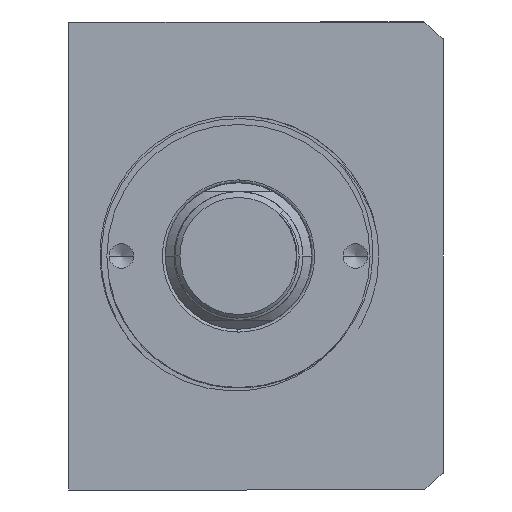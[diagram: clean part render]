
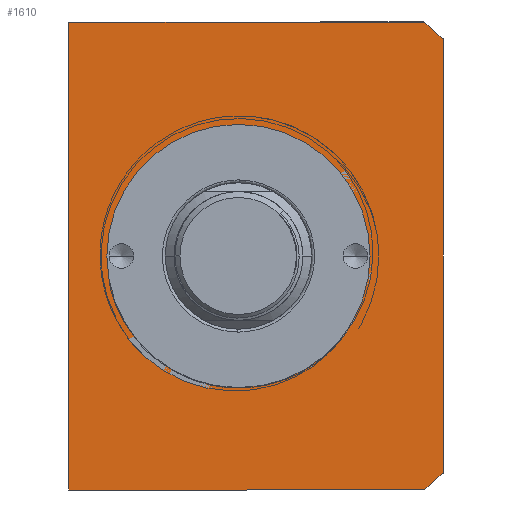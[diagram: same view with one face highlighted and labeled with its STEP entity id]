
A CAD part, front view. The second image highlights one B-rep face of the part: STEP entity #1610.
In plain terms, the highlighted planar face has unit normal (0, -1, 0) as drawn and (0, 0, 1) by its records, which use the part's own axes.
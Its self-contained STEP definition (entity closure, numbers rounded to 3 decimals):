
#3 = CARTESIAN_POINT ( 'NONE',  ( -40., -11.507, 85. ) ) ;
#269 = ORIENTED_EDGE ( 'NONE', *, *, #13933, .T. ) ;
#393 = DIRECTION ( 'NONE',  ( 1., 0., 0. ) ) ;
#505 = VERTEX_POINT ( 'NONE', #15257 ) ;
#553 = PLANE ( 'NONE',  #6354 ) ;
#1166 = CIRCLE ( 'NONE', #10060, 51. ) ;
#1325 = CARTESIAN_POINT ( 'NONE',  ( 22.5, -40.507, 85. ) ) ;
#1394 = CIRCLE ( 'NONE', #5482, 51. ) ;
#1535 = EDGE_CURVE ( 'NONE', #9609, #13729, #16330, .T. ) ;
#1610 = ADVANCED_FACE ( 'NONE', ( #2219, #13230 ), #553, .T. ) ;
#1814 = DIRECTION ( 'NONE',  ( 0., 0., 1. ) ) ;
#1850 = EDGE_CURVE ( 'NONE', #3968, #6178, #1394, .T. ) ;
#1895 = DIRECTION ( 'NONE',  ( 0., 0., 1. ) ) ;
#2052 = ORIENTED_EDGE ( 'NONE', *, *, #14665, .F. ) ;
#2219 = FACE_BOUND ( 'NONE', #7257, .T. ) ;
#3152 = CARTESIAN_POINT ( 'NONE',  ( 0., -40.507, 85. ) ) ;
#3162 = ORIENTED_EDGE ( 'NONE', *, *, #8973, .T. ) ;
#3217 = VECTOR ( 'NONE', #10965, 1000. ) ;
#3622 = VERTEX_POINT ( 'NONE', #5180 ) ;
#3968 = VERTEX_POINT ( 'NONE', #3976 ) ;
#3976 = CARTESIAN_POINT ( 'NONE',  ( -40., -72.145, 85. ) ) ;
#4031 = DIRECTION ( 'NONE',  ( 0., -1., 0. ) ) ;
#4049 = ORIENTED_EDGE ( 'NONE', *, *, #15412, .T. ) ;
#4606 = DIRECTION ( 'NONE',  ( 1., 0., 0. ) ) ;
#4682 = CIRCLE ( 'NONE', #13540, 22.5 ) ;
#4862 = VECTOR ( 'NONE', #4031, 1000. ) ;
#4977 = EDGE_CURVE ( 'NONE', #3622, #6507, #8776, .T. ) ;
#5033 = EDGE_CURVE ( 'NONE', #505, #3968, #15453, .T. ) ;
#5180 = CARTESIAN_POINT ( 'NONE',  ( 40., -72.145, 85. ) ) ;
#5281 = VECTOR ( 'NONE', #13072, 1000. ) ;
#5482 = AXIS2_PLACEMENT_3D ( 'NONE', #6637, #15932, #7964 ) ;
#6178 = VERTEX_POINT ( 'NONE', #6325 ) ;
#6325 = CARTESIAN_POINT ( 'NONE',  ( -37.094, -75.507, 85. ) ) ;
#6354 = AXIS2_PLACEMENT_3D ( 'NONE', #9831, #1895, #11188 ) ;
#6507 = VERTEX_POINT ( 'NONE', #6967 ) ;
#6637 = CARTESIAN_POINT ( 'NONE',  ( 0., -40.507, 85. ) ) ;
#6863 = DIRECTION ( 'NONE',  ( 0., 0., 1. ) ) ;
#6967 = CARTESIAN_POINT ( 'NONE',  ( 40., -11.507, 85. ) ) ;
#7033 = EDGE_LOOP ( 'NONE', ( #16201, #13878, #4049, #3162, #9567, #269 ) ) ;
#7257 = EDGE_LOOP ( 'NONE', ( #14941, #2052 ) ) ;
#7710 = CARTESIAN_POINT ( 'NONE',  ( 40., -11.507, 85. ) ) ;
#7964 = DIRECTION ( 'NONE',  ( 1., 0., 0. ) ) ;
#8180 = CARTESIAN_POINT ( 'NONE',  ( 37.094, -75.507, 85. ) ) ;
#8328 = DIRECTION ( 'NONE',  ( 0., 0., 1. ) ) ;
#8776 = LINE ( 'NONE', #7710, #5281 ) ;
#8973 = EDGE_CURVE ( 'NONE', #11199, #3622, #1166, .T. ) ;
#9214 = DIRECTION ( 'NONE',  ( -1., 0., 0. ) ) ;
#9567 = ORIENTED_EDGE ( 'NONE', *, *, #4977, .T. ) ;
#9609 = VERTEX_POINT ( 'NONE', #1325 ) ;
#9831 = CARTESIAN_POINT ( 'NONE',  ( 0., 0., 85. ) ) ;
#10060 = AXIS2_PLACEMENT_3D ( 'NONE', #16285, #8328, #393 ) ;
#10273 = LINE ( 'NONE', #12283, #3217 ) ;
#10965 = DIRECTION ( 'NONE',  ( 1., 0., 0. ) ) ;
#11188 = DIRECTION ( 'NONE',  ( 1., 0., 0. ) ) ;
#11199 = VERTEX_POINT ( 'NONE', #8180 ) ;
#11448 = CARTESIAN_POINT ( 'NONE',  ( -22.5, -40.507, 85. ) ) ;
#12283 = CARTESIAN_POINT ( 'NONE',  ( -40., -75.507, 85. ) ) ;
#13072 = DIRECTION ( 'NONE',  ( 0., 1., 0. ) ) ;
#13230 = FACE_OUTER_BOUND ( 'NONE', #7033, .T. ) ;
#13236 = CARTESIAN_POINT ( 'NONE',  ( -40., -11.507, 85. ) ) ;
#13540 = AXIS2_PLACEMENT_3D ( 'NONE', #14812, #6863, #16148 ) ;
#13630 = LINE ( 'NONE', #13236, #16722 ) ;
#13729 = VERTEX_POINT ( 'NONE', #11448 ) ;
#13878 = ORIENTED_EDGE ( 'NONE', *, *, #1850, .T. ) ;
#13933 = EDGE_CURVE ( 'NONE', #6507, #505, #13630, .T. ) ;
#14665 = EDGE_CURVE ( 'NONE', #13729, #9609, #4682, .T. ) ;
#14812 = CARTESIAN_POINT ( 'NONE',  ( 0., -40.507, 85. ) ) ;
#14941 = ORIENTED_EDGE ( 'NONE', *, *, #1535, .F. ) ;
#15257 = CARTESIAN_POINT ( 'NONE',  ( -40., -11.507, 85. ) ) ;
#15412 = EDGE_CURVE ( 'NONE', #6178, #11199, #10273, .T. ) ;
#15453 = LINE ( 'NONE', #3, #4862 ) ;
#15932 = DIRECTION ( 'NONE',  ( 0., 0., 1. ) ) ;
#16148 = DIRECTION ( 'NONE',  ( 1., 0., 0. ) ) ;
#16201 = ORIENTED_EDGE ( 'NONE', *, *, #5033, .T. ) ;
#16285 = CARTESIAN_POINT ( 'NONE',  ( 0., -40.507, 85. ) ) ;
#16330 = CIRCLE ( 'NONE', #16756, 22.5 ) ;
#16722 = VECTOR ( 'NONE', #9214, 1000. ) ;
#16756 = AXIS2_PLACEMENT_3D ( 'NONE', #3152, #1814, #4606 ) ;
